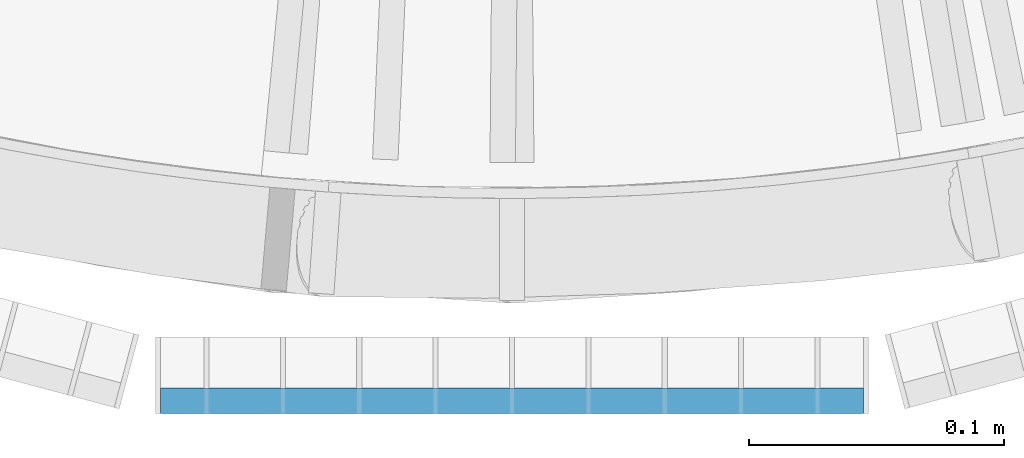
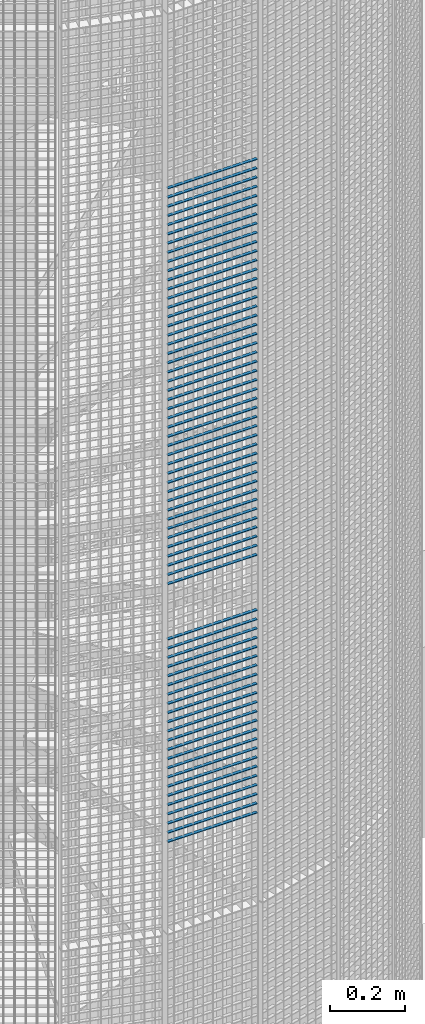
# One storey, part 142 of 1148: 67 beams, 1 element without a shape of its own.
"""IFC2X3 building model written with IfcOpenShell, lengths in millimetres."""

from ifc_helpers import new_model, si_unit, frame, origin_with_axes, origin_2d_with_axis, place, context, subcontext, project, spatial, rectangle, extrude, material, type_object, element, aggregate, save


model = new_model("IFC2X3")

# Units and contexts
model_context = context("Model", 3, precision=1e-05, world=origin_with_axes())
body_context = subcontext(model_context, "Body", "Model", "MODEL_VIEW")
ifc_project = project(units=[si_unit("LENGTHUNIT", "METRE", prefix="MILLI"), si_unit("AREAUNIT", "SQUARE_METRE"), si_unit("VOLUMEUNIT", "CUBIC_METRE"), si_unit("MASSUNIT", "GRAM", prefix="KILO"), si_unit("TIMEUNIT", "SECOND"), si_unit("PLANEANGLEUNIT", "RADIAN"), si_unit("SOLIDANGLEUNIT", "STERADIAN"), si_unit("THERMODYNAMICTEMPERATUREUNIT", "DEGREE_CELSIUS"), si_unit("LUMINOUSINTENSITYUNIT", "LUMEN")], contexts=[model_context])

# Site, building, storey
site_placement = place(None, origin_with_axes())
site = spatial("IfcSite", under=ifc_project, at=site_placement, Name="Undefined", CompositionType="ELEMENT")
building_placement = place(site_placement, origin_with_axes())
building = spatial("IfcBuilding", under=site, at=building_placement, Name="Undefined", CompositionType="ELEMENT")
storey_placement = place(building_placement, origin_with_axes())
storey = spatial("IfcBuildingStorey", under=building, at=storey_placement, Name="Undefined", CompositionType="ELEMENT", Elevation=0.0)

# Assembly, beams
assembly_placement = place(storey_placement, origin_with_axes())
assembly = element("IfcElementAssembly", 1, at=assembly_placement, inside=storey, Name="BORDURE", AssemblyPlace="NOTDEFINED", PredefinedType="NOTDEFINED")
ifc_material = material(Name="STEEL/S235JR")
beam_type = type_object("IfcBeamType", Name="PL2*10", PredefinedType="NOTDEFINED")
beam_1_placement = place(assembly_placement, frame((-137.99600337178, -1113.47999999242, 14430.0), z_axis=(0.0, -1.0, 0.0), x_axis=(1.0, 0.0, 0.0)))
beam_1 = element("IfcBeam", 2, at=beam_1_placement, type_object=beam_type, material=ifc_material, Name="ENTRETOISE", context=body_context, shape_type="SweptSolid", body=[
    extrude(rectangle(XDim=2.0, YDim=10.0, at=origin_2d_with_axis()), frame((275.999999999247, 9.09494701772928e-13, 1.53210777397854e-14), z_axis=(-1.0, 0.0, 0.0), x_axis=(0.0, -1.0, 0.0)), (0.0, 0.0, 1.0), 276.0),
])
beam_2_placement = place(assembly_placement, frame((-137.99600337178, -1113.47999999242, 14400.0), z_axis=(0.0, -1.0, 0.0), x_axis=(1.0, 0.0, 0.0)))
beam_2 = element("IfcBeam", 3, at=beam_2_placement, type_object=beam_type, material=ifc_material, Name="ENTRETOISE", context=body_context, shape_type="SweptSolid", body=[
    extrude(rectangle(XDim=2.0, YDim=10.0, at=origin_2d_with_axis()), frame((275.999999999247, 9.09494701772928e-13, 1.53210777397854e-14), z_axis=(-1.0, 0.0, 0.0), x_axis=(0.0, -1.0, 0.0)), (0.0, 0.0, 1.0), 276.0),
])
beam_3_placement = place(assembly_placement, frame((-137.99600337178, -1113.47999999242, 14370.0), z_axis=(0.0, -1.0, 0.0), x_axis=(1.0, 0.0, 0.0)))
beam_3 = element("IfcBeam", 4, at=beam_3_placement, type_object=beam_type, material=ifc_material, Name="ENTRETOISE", context=body_context, shape_type="SweptSolid", body=[
    extrude(rectangle(XDim=2.0, YDim=10.0, at=origin_2d_with_axis()), frame((275.999999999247, 9.09494701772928e-13, 1.53210777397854e-14), z_axis=(-1.0, 0.0, 0.0), x_axis=(0.0, -1.0, 0.0)), (0.0, 0.0, 1.0), 276.0),
])
beam_4_placement = place(assembly_placement, frame((-137.99600337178, -1113.47999999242, 14340.0), z_axis=(0.0, -1.0, 0.0), x_axis=(1.0, 0.0, 0.0)))
beam_4 = element("IfcBeam", 5, at=beam_4_placement, type_object=beam_type, material=ifc_material, Name="ENTRETOISE", context=body_context, shape_type="SweptSolid", body=[
    extrude(rectangle(XDim=2.0, YDim=10.0, at=origin_2d_with_axis()), frame((275.999999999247, 9.09494701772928e-13, 1.53210777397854e-14), z_axis=(-1.0, 0.0, 0.0), x_axis=(0.0, -1.0, 0.0)), (0.0, 0.0, 1.0), 276.0),
])
beam_5_placement = place(assembly_placement, frame((-137.996003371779, -1113.47999999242, 14310.0), z_axis=(0.0, -1.0, 0.0), x_axis=(1.0, 0.0, 0.0)))
beam_5 = element("IfcBeam", 6, at=beam_5_placement, type_object=beam_type, material=ifc_material, Name="ENTRETOISE", context=body_context, shape_type="SweptSolid", body=[
    extrude(rectangle(XDim=2.0, YDim=10.0, at=origin_2d_with_axis()), frame((275.999999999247, 9.09494701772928e-13, 1.53210777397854e-14), z_axis=(-1.0, 0.0, 0.0), x_axis=(0.0, -1.0, 0.0)), (0.0, 0.0, 1.0), 276.0),
])
beam_6_placement = place(assembly_placement, frame((-137.996003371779, -1113.47999999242, 14280.0), z_axis=(0.0, -1.0, 0.0), x_axis=(1.0, 0.0, 0.0)))
beam_6 = element("IfcBeam", 7, at=beam_6_placement, type_object=beam_type, material=ifc_material, Name="ENTRETOISE", context=body_context, shape_type="SweptSolid", body=[
    extrude(rectangle(XDim=2.0, YDim=10.0, at=origin_2d_with_axis()), frame((275.999999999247, 9.09494701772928e-13, 1.53210777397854e-14), z_axis=(-1.0, 0.0, 0.0), x_axis=(0.0, -1.0, 0.0)), (0.0, 0.0, 1.0), 276.0),
])
beam_7_placement = place(assembly_placement, frame((-137.996003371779, -1113.47999999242, 14250.0), z_axis=(0.0, -1.0, 0.0), x_axis=(1.0, 0.0, 0.0)))
beam_7 = element("IfcBeam", 8, at=beam_7_placement, type_object=beam_type, material=ifc_material, Name="ENTRETOISE", context=body_context, shape_type="SweptSolid", body=[
    extrude(rectangle(XDim=2.0, YDim=10.0, at=origin_2d_with_axis()), frame((275.999999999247, 9.09494701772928e-13, 1.53210777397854e-14), z_axis=(-1.0, 0.0, 0.0), x_axis=(0.0, -1.0, 0.0)), (0.0, 0.0, 1.0), 276.0),
])
beam_8_placement = place(assembly_placement, frame((-137.996003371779, -1113.47999999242, 14220.0), z_axis=(0.0, -1.0, 0.0), x_axis=(1.0, 0.0, 0.0)))
beam_8 = element("IfcBeam", 9, at=beam_8_placement, type_object=beam_type, material=ifc_material, Name="ENTRETOISE", context=body_context, shape_type="SweptSolid", body=[
    extrude(rectangle(XDim=2.0, YDim=10.0, at=origin_2d_with_axis()), frame((275.999999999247, 9.09494701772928e-13, 1.53210777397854e-14), z_axis=(-1.0, 0.0, 0.0), x_axis=(0.0, -1.0, 0.0)), (0.0, 0.0, 1.0), 276.0),
])
beam_9_placement = place(assembly_placement, frame((-137.996003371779, -1113.47999999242, 14190.0), z_axis=(0.0, -1.0, 0.0), x_axis=(1.0, 0.0, 0.0)))
beam_9 = element("IfcBeam", 10, at=beam_9_placement, type_object=beam_type, material=ifc_material, Name="ENTRETOISE", context=body_context, shape_type="SweptSolid", body=[
    extrude(rectangle(XDim=2.0, YDim=10.0, at=origin_2d_with_axis()), frame((275.999999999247, 9.09494701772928e-13, 1.53210777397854e-14), z_axis=(-1.0, 0.0, 0.0), x_axis=(0.0, -1.0, 0.0)), (0.0, 0.0, 1.0), 276.0),
])
beam_10_placement = place(assembly_placement, frame((-137.996003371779, -1113.47999999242, 14160.0), z_axis=(0.0, -1.0, 0.0), x_axis=(1.0, 0.0, 0.0)))
beam_10 = element("IfcBeam", 11, at=beam_10_placement, type_object=beam_type, material=ifc_material, Name="ENTRETOISE", context=body_context, shape_type="SweptSolid", body=[
    extrude(rectangle(XDim=2.0, YDim=10.0, at=origin_2d_with_axis()), frame((275.999999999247, 9.09494701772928e-13, 1.53210777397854e-14), z_axis=(-1.0, 0.0, 0.0), x_axis=(0.0, -1.0, 0.0)), (0.0, 0.0, 1.0), 276.0),
])
beam_11_placement = place(assembly_placement, frame((-137.996003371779, -1113.47999999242, 14130.0), z_axis=(0.0, -1.0, 0.0), x_axis=(1.0, 0.0, 0.0)))
beam_11 = element("IfcBeam", 12, at=beam_11_placement, type_object=beam_type, material=ifc_material, Name="ENTRETOISE", context=body_context, shape_type="SweptSolid", body=[
    extrude(rectangle(XDim=2.0, YDim=10.0, at=origin_2d_with_axis()), frame((275.999999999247, 9.09494701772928e-13, 1.53210777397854e-14), z_axis=(-1.0, 0.0, 0.0), x_axis=(0.0, -1.0, 0.0)), (0.0, 0.0, 1.0), 276.0),
])
beam_12_placement = place(assembly_placement, frame((-137.996003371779, -1113.47999999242, 14100.0), z_axis=(0.0, -1.0, 0.0), x_axis=(1.0, 0.0, 0.0)))
beam_12 = element("IfcBeam", 13, at=beam_12_placement, type_object=beam_type, material=ifc_material, Name="ENTRETOISE", context=body_context, shape_type="SweptSolid", body=[
    extrude(rectangle(XDim=2.0, YDim=10.0, at=origin_2d_with_axis()), frame((275.999999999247, 9.09494701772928e-13, 1.53210777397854e-14), z_axis=(-1.0, 0.0, 0.0), x_axis=(0.0, -1.0, 0.0)), (0.0, 0.0, 1.0), 276.0),
])
beam_13_placement = place(assembly_placement, frame((-137.996003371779, -1113.47999999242, 14070.0), z_axis=(0.0, -1.0, 0.0), x_axis=(1.0, 0.0, 0.0)))
beam_13 = element("IfcBeam", 14, at=beam_13_placement, type_object=beam_type, material=ifc_material, Name="ENTRETOISE", context=body_context, shape_type="SweptSolid", body=[
    extrude(rectangle(XDim=2.0, YDim=10.0, at=origin_2d_with_axis()), frame((275.999999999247, 9.09494701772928e-13, 1.53210777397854e-14), z_axis=(-1.0, 0.0, 0.0), x_axis=(0.0, -1.0, 0.0)), (0.0, 0.0, 1.0), 276.0),
])
beam_14_placement = place(assembly_placement, frame((-137.996003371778, -1113.47999999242, 14040.0), z_axis=(0.0, -1.0, 0.0), x_axis=(1.0, 0.0, 0.0)))
beam_14 = element("IfcBeam", 15, at=beam_14_placement, type_object=beam_type, material=ifc_material, Name="ENTRETOISE", context=body_context, shape_type="SweptSolid", body=[
    extrude(rectangle(XDim=2.0, YDim=10.0, at=origin_2d_with_axis()), frame((275.999999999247, 9.09494701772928e-13, 1.53210777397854e-14), z_axis=(-1.0, 0.0, 0.0), x_axis=(0.0, -1.0, 0.0)), (0.0, 0.0, 1.0), 276.0),
])
beam_15_placement = place(assembly_placement, frame((-137.996003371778, -1113.47999999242, 14010.0), z_axis=(0.0, -1.0, 0.0), x_axis=(1.0, 0.0, 0.0)))
beam_15 = element("IfcBeam", 16, at=beam_15_placement, type_object=beam_type, material=ifc_material, Name="ENTRETOISE", context=body_context, shape_type="SweptSolid", body=[
    extrude(rectangle(XDim=2.0, YDim=10.0, at=origin_2d_with_axis()), frame((275.999999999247, 9.09494701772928e-13, 1.53210777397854e-14), z_axis=(-1.0, 0.0, 0.0), x_axis=(0.0, -1.0, 0.0)), (0.0, 0.0, 1.0), 276.0),
])
beam_16_placement = place(assembly_placement, frame((-137.996003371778, -1113.47999999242, 13980.0), z_axis=(0.0, -1.0, 0.0), x_axis=(1.0, 0.0, 0.0)))
beam_16 = element("IfcBeam", 17, at=beam_16_placement, type_object=beam_type, material=ifc_material, Name="ENTRETOISE", context=body_context, shape_type="SweptSolid", body=[
    extrude(rectangle(XDim=2.0, YDim=10.0, at=origin_2d_with_axis()), frame((275.999999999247, 9.09494701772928e-13, 1.53210777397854e-14), z_axis=(-1.0, 0.0, 0.0), x_axis=(0.0, -1.0, 0.0)), (0.0, 0.0, 1.0), 276.0),
])
beam_17_placement = place(assembly_placement, frame((-137.996003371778, -1113.47999999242, 13950.0), z_axis=(0.0, -1.0, 0.0), x_axis=(1.0, 0.0, 0.0)))
beam_17 = element("IfcBeam", 18, at=beam_17_placement, type_object=beam_type, material=ifc_material, Name="ENTRETOISE", context=body_context, shape_type="SweptSolid", body=[
    extrude(rectangle(XDim=2.0, YDim=10.0, at=origin_2d_with_axis()), frame((275.999999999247, 9.09494701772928e-13, 1.53210777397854e-14), z_axis=(-1.0, 0.0, 0.0), x_axis=(0.0, -1.0, 0.0)), (0.0, 0.0, 1.0), 276.0),
])
beam_18_placement = place(assembly_placement, frame((-137.996003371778, -1113.47999999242, 13920.0), z_axis=(0.0, -1.0, 0.0), x_axis=(1.0, 0.0, 0.0)))
beam_18 = element("IfcBeam", 19, at=beam_18_placement, type_object=beam_type, material=ifc_material, Name="ENTRETOISE", context=body_context, shape_type="SweptSolid", body=[
    extrude(rectangle(XDim=2.0, YDim=10.0, at=origin_2d_with_axis()), frame((275.999999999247, 9.09494701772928e-13, 1.53210777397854e-14), z_axis=(-1.0, 0.0, 0.0), x_axis=(0.0, -1.0, 0.0)), (0.0, 0.0, 1.0), 276.0),
])
beam_19_placement = place(assembly_placement, frame((-137.996003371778, -1113.47999999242, 13890.0), z_axis=(0.0, -1.0, 0.0), x_axis=(1.0, 0.0, 0.0)))
beam_19 = element("IfcBeam", 20, at=beam_19_placement, type_object=beam_type, material=ifc_material, Name="ENTRETOISE", context=body_context, shape_type="SweptSolid", body=[
    extrude(rectangle(XDim=2.0, YDim=10.0, at=origin_2d_with_axis()), frame((275.999999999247, 9.09494701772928e-13, 1.53210777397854e-14), z_axis=(-1.0, 0.0, 0.0), x_axis=(0.0, -1.0, 0.0)), (0.0, 0.0, 1.0), 276.0),
])
beam_20_placement = place(assembly_placement, frame((-137.996003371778, -1113.47999999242, 13860.0), z_axis=(0.0, -1.0, 0.0), x_axis=(1.0, 0.0, 0.0)))
beam_20 = element("IfcBeam", 21, at=beam_20_placement, type_object=beam_type, material=ifc_material, Name="ENTRETOISE", context=body_context, shape_type="SweptSolid", body=[
    extrude(rectangle(XDim=2.0, YDim=10.0, at=origin_2d_with_axis()), frame((275.999999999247, 9.09494701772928e-13, 1.53210777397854e-14), z_axis=(-1.0, 0.0, 0.0), x_axis=(0.0, -1.0, 0.0)), (0.0, 0.0, 1.0), 276.0),
])
beam_21_placement = place(assembly_placement, frame((-137.996003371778, -1113.47999999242, 13830.0), z_axis=(0.0, -1.0, 0.0), x_axis=(1.0, 0.0, 0.0)))
beam_21 = element("IfcBeam", 22, at=beam_21_placement, type_object=beam_type, material=ifc_material, Name="ENTRETOISE", context=body_context, shape_type="SweptSolid", body=[
    extrude(rectangle(XDim=2.0, YDim=10.0, at=origin_2d_with_axis()), frame((275.999999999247, 9.09494701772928e-13, 1.53210777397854e-14), z_axis=(-1.0, 0.0, 0.0), x_axis=(0.0, -1.0, 0.0)), (0.0, 0.0, 1.0), 276.0),
])
beam_22_placement = place(assembly_placement, frame((-137.996003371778, -1113.47999999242, 13800.0), z_axis=(0.0, -1.0, 0.0), x_axis=(1.0, 0.0, 0.0)))
beam_22 = element("IfcBeam", 23, at=beam_22_placement, type_object=beam_type, material=ifc_material, Name="ENTRETOISE", context=body_context, shape_type="SweptSolid", body=[
    extrude(rectangle(XDim=2.0, YDim=10.0, at=origin_2d_with_axis()), frame((275.999999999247, 9.09494701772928e-13, 1.53210777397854e-14), z_axis=(-1.0, 0.0, 0.0), x_axis=(0.0, -1.0, 0.0)), (0.0, 0.0, 1.0), 276.0),
])
beam_23_placement = place(assembly_placement, frame((-137.996003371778, -1113.47999999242, 13770.0), z_axis=(0.0, -1.0, 0.0), x_axis=(1.0, 0.0, 0.0)))
beam_23 = element("IfcBeam", 24, at=beam_23_placement, type_object=beam_type, material=ifc_material, Name="ENTRETOISE", context=body_context, shape_type="SweptSolid", body=[
    extrude(rectangle(XDim=2.0, YDim=10.0, at=origin_2d_with_axis()), frame((275.999999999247, 9.09494701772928e-13, 1.53210777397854e-14), z_axis=(-1.0, 0.0, 0.0), x_axis=(0.0, -1.0, 0.0)), (0.0, 0.0, 1.0), 276.0),
])
beam_24_placement = place(assembly_placement, frame((-137.996003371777, -1113.47999999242, 13740.0), z_axis=(0.0, -1.0, 0.0), x_axis=(1.0, 0.0, 0.0)))
beam_24 = element("IfcBeam", 25, at=beam_24_placement, type_object=beam_type, material=ifc_material, Name="ENTRETOISE", context=body_context, shape_type="SweptSolid", body=[
    extrude(rectangle(XDim=2.0, YDim=10.0, at=origin_2d_with_axis()), frame((275.999999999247, 9.09494701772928e-13, 1.53210777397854e-14), z_axis=(-1.0, 0.0, 0.0), x_axis=(0.0, -1.0, 0.0)), (0.0, 0.0, 1.0), 276.0),
])
beam_25_placement = place(assembly_placement, frame((-137.996003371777, -1113.47999999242, 13710.0), z_axis=(0.0, -1.0, 0.0), x_axis=(1.0, 0.0, 0.0)))
beam_25 = element("IfcBeam", 26, at=beam_25_placement, type_object=beam_type, material=ifc_material, Name="ENTRETOISE", context=body_context, shape_type="SweptSolid", body=[
    extrude(rectangle(XDim=2.0, YDim=10.0, at=origin_2d_with_axis()), frame((275.999999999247, 9.09494701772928e-13, 1.53210777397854e-14), z_axis=(-1.0, 0.0, 0.0), x_axis=(0.0, -1.0, 0.0)), (0.0, 0.0, 1.0), 276.0),
])
beam_26_placement = place(assembly_placement, frame((-137.996003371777, -1113.47999999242, 13680.0), z_axis=(0.0, -1.0, 0.0), x_axis=(1.0, 0.0, 0.0)))
beam_26 = element("IfcBeam", 27, at=beam_26_placement, type_object=beam_type, material=ifc_material, Name="ENTRETOISE", context=body_context, shape_type="SweptSolid", body=[
    extrude(rectangle(XDim=2.0, YDim=10.0, at=origin_2d_with_axis()), frame((275.999999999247, 9.09494701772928e-13, 1.53210777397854e-14), z_axis=(-1.0, 0.0, 0.0), x_axis=(0.0, -1.0, 0.0)), (0.0, 0.0, 1.0), 276.0),
])
beam_27_placement = place(assembly_placement, frame((-137.996003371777, -1113.47999999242, 13650.0), z_axis=(0.0, -1.0, 0.0), x_axis=(1.0, 0.0, 0.0)))
beam_27 = element("IfcBeam", 28, at=beam_27_placement, type_object=beam_type, material=ifc_material, Name="ENTRETOISE", context=body_context, shape_type="SweptSolid", body=[
    extrude(rectangle(XDim=2.0, YDim=10.0, at=origin_2d_with_axis()), frame((275.999999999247, 9.09494701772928e-13, 1.53210777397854e-14), z_axis=(-1.0, 0.0, 0.0), x_axis=(0.0, -1.0, 0.0)), (0.0, 0.0, 1.0), 276.0),
])
beam_28_placement = place(assembly_placement, frame((-137.996003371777, -1113.47999999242, 13620.0), z_axis=(0.0, -1.0, 0.0), x_axis=(1.0, 0.0, 0.0)))
beam_28 = element("IfcBeam", 29, at=beam_28_placement, type_object=beam_type, material=ifc_material, Name="ENTRETOISE", context=body_context, shape_type="SweptSolid", body=[
    extrude(rectangle(XDim=2.0, YDim=10.0, at=origin_2d_with_axis()), frame((275.999999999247, 9.09494701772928e-13, 1.53210777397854e-14), z_axis=(-1.0, 0.0, 0.0), x_axis=(0.0, -1.0, 0.0)), (0.0, 0.0, 1.0), 276.0),
])
beam_29_placement = place(assembly_placement, frame((-137.996003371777, -1113.47999999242, 13590.0), z_axis=(0.0, -1.0, 0.0), x_axis=(1.0, 0.0, 0.0)))
beam_29 = element("IfcBeam", 30, at=beam_29_placement, type_object=beam_type, material=ifc_material, Name="ENTRETOISE", context=body_context, shape_type="SweptSolid", body=[
    extrude(rectangle(XDim=2.0, YDim=10.0, at=origin_2d_with_axis()), frame((275.999999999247, 9.09494701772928e-13, 1.53210777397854e-14), z_axis=(-1.0, 0.0, 0.0), x_axis=(0.0, -1.0, 0.0)), (0.0, 0.0, 1.0), 276.0),
])
beam_30_placement = place(assembly_placement, frame((-137.996003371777, -1113.47999999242, 13560.0), z_axis=(0.0, -1.0, 0.0), x_axis=(1.0, 0.0, 0.0)))
beam_30 = element("IfcBeam", 31, at=beam_30_placement, type_object=beam_type, material=ifc_material, Name="ENTRETOISE", context=body_context, shape_type="SweptSolid", body=[
    extrude(rectangle(XDim=2.0, YDim=10.0, at=origin_2d_with_axis()), frame((275.999999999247, 9.09494701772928e-13, 1.53210777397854e-14), z_axis=(-1.0, 0.0, 0.0), x_axis=(0.0, -1.0, 0.0)), (0.0, 0.0, 1.0), 276.0),
])
beam_31_placement = place(assembly_placement, frame((-137.996003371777, -1113.47999999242, 13530.0), z_axis=(0.0, -1.0, 0.0), x_axis=(1.0, 0.0, 0.0)))
beam_31 = element("IfcBeam", 32, at=beam_31_placement, type_object=beam_type, material=ifc_material, Name="ENTRETOISE", context=body_context, shape_type="SweptSolid", body=[
    extrude(rectangle(XDim=2.0, YDim=10.0, at=origin_2d_with_axis()), frame((275.999999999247, 9.09494701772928e-13, 1.53210777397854e-14), z_axis=(-1.0, 0.0, 0.0), x_axis=(0.0, -1.0, 0.0)), (0.0, 0.0, 1.0), 276.0),
])
beam_32_placement = place(assembly_placement, frame((-137.996003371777, -1113.47999999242, 13500.0), z_axis=(0.0, -1.0, 0.0), x_axis=(1.0, 0.0, 0.0)))
beam_32 = element("IfcBeam", 33, at=beam_32_placement, type_object=beam_type, material=ifc_material, Name="ENTRETOISE", context=body_context, shape_type="SweptSolid", body=[
    extrude(rectangle(XDim=2.0, YDim=10.0, at=origin_2d_with_axis()), frame((275.999999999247, 9.09494701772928e-13, 1.53210777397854e-14), z_axis=(-1.0, 0.0, 0.0), x_axis=(0.0, -1.0, 0.0)), (0.0, 0.0, 1.0), 276.0),
])
beam_33_placement = place(assembly_placement, frame((-137.996003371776, -1113.47999999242, 13470.0), z_axis=(0.0, -1.0, 0.0), x_axis=(1.0, 0.0, 0.0)))
beam_33 = element("IfcBeam", 34, at=beam_33_placement, type_object=beam_type, material=ifc_material, Name="ENTRETOISE", context=body_context, shape_type="SweptSolid", body=[
    extrude(rectangle(XDim=2.0, YDim=10.0, at=origin_2d_with_axis()), frame((275.999999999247, 9.09494701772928e-13, 1.53210777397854e-14), z_axis=(-1.0, 0.0, 0.0), x_axis=(0.0, -1.0, 0.0)), (0.0, 0.0, 1.0), 276.0),
])
beam_34_placement = place(assembly_placement, frame((-137.996003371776, -1113.47999999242, 13440.0), z_axis=(0.0, -1.0, 0.0), x_axis=(1.0, 0.0, 0.0)))
beam_34 = element("IfcBeam", 35, at=beam_34_placement, type_object=beam_type, material=ifc_material, Name="ENTRETOISE", context=body_context, shape_type="SweptSolid", body=[
    extrude(rectangle(XDim=2.0, YDim=10.0, at=origin_2d_with_axis()), frame((275.999999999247, 9.09494701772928e-13, 1.53210777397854e-14), z_axis=(-1.0, 0.0, 0.0), x_axis=(0.0, -1.0, 0.0)), (0.0, 0.0, 1.0), 276.0),
])
beam_35_placement = place(assembly_placement, frame((-137.996003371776, -1113.47999999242, 13410.0), z_axis=(0.0, -1.0, 0.0), x_axis=(1.0, 0.0, 0.0)))
beam_35 = element("IfcBeam", 36, at=beam_35_placement, type_object=beam_type, material=ifc_material, Name="ENTRETOISE", context=body_context, shape_type="SweptSolid", body=[
    extrude(rectangle(XDim=2.0, YDim=10.0, at=origin_2d_with_axis()), frame((275.999999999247, 9.09494701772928e-13, 1.53210777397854e-14), z_axis=(-1.0, 0.0, 0.0), x_axis=(0.0, -1.0, 0.0)), (0.0, 0.0, 1.0), 276.0),
])
beam_36_placement = place(assembly_placement, frame((-137.996003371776, -1113.47999999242, 13380.0), z_axis=(0.0, -1.0, 0.0), x_axis=(1.0, 0.0, 0.0)))
beam_36 = element("IfcBeam", 37, at=beam_36_placement, type_object=beam_type, material=ifc_material, Name="ENTRETOISE", context=body_context, shape_type="SweptSolid", body=[
    extrude(rectangle(XDim=2.0, YDim=10.0, at=origin_2d_with_axis()), frame((275.999999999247, 9.09494701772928e-13, 1.53210777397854e-14), z_axis=(-1.0, 0.0, 0.0), x_axis=(0.0, -1.0, 0.0)), (0.0, 0.0, 1.0), 276.0),
])
beam_37_placement = place(assembly_placement, frame((-137.996003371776, -1113.47999999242, 13350.0), z_axis=(0.0, -1.0, 0.0), x_axis=(1.0, 0.0, 0.0)))
beam_37 = element("IfcBeam", 38, at=beam_37_placement, type_object=beam_type, material=ifc_material, Name="ENTRETOISE", context=body_context, shape_type="SweptSolid", body=[
    extrude(rectangle(XDim=2.0, YDim=10.0, at=origin_2d_with_axis()), frame((275.999999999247, 9.09494701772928e-13, 1.53210777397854e-14), z_axis=(-1.0, 0.0, 0.0), x_axis=(0.0, -1.0, 0.0)), (0.0, 0.0, 1.0), 276.0),
])
beam_38_placement = place(assembly_placement, frame((-137.996003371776, -1113.47999999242, 13320.0), z_axis=(0.0, -1.0, 0.0), x_axis=(1.0, 0.0, 0.0)))
beam_38 = element("IfcBeam", 39, at=beam_38_placement, type_object=beam_type, material=ifc_material, Name="ENTRETOISE", context=body_context, shape_type="SweptSolid", body=[
    extrude(rectangle(XDim=2.0, YDim=10.0, at=origin_2d_with_axis()), frame((275.999999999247, 9.09494701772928e-13, 1.53210777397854e-14), z_axis=(-1.0, 0.0, 0.0), x_axis=(0.0, -1.0, 0.0)), (0.0, 0.0, 1.0), 276.0),
])
beam_39_placement = place(assembly_placement, frame((-137.996003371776, -1113.47999999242, 13290.0), z_axis=(0.0, -1.0, 0.0), x_axis=(1.0, 0.0, 0.0)))
beam_39 = element("IfcBeam", 40, at=beam_39_placement, type_object=beam_type, material=ifc_material, Name="ENTRETOISE", context=body_context, shape_type="SweptSolid", body=[
    extrude(rectangle(XDim=2.0, YDim=10.0, at=origin_2d_with_axis()), frame((275.999999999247, 9.09494701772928e-13, 1.53210777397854e-14), z_axis=(-1.0, 0.0, 0.0), x_axis=(0.0, -1.0, 0.0)), (0.0, 0.0, 1.0), 276.0),
])
beam_40_placement = place(assembly_placement, frame((-137.996003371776, -1113.47999999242, 13260.0), z_axis=(0.0, -1.0, 0.0), x_axis=(1.0, 0.0, 0.0)))
beam_40 = element("IfcBeam", 41, at=beam_40_placement, type_object=beam_type, material=ifc_material, Name="ENTRETOISE", context=body_context, shape_type="SweptSolid", body=[
    extrude(rectangle(XDim=2.0, YDim=10.0, at=origin_2d_with_axis()), frame((275.999999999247, 9.09494701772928e-13, 1.53210777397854e-14), z_axis=(-1.0, 0.0, 0.0), x_axis=(0.0, -1.0, 0.0)), (0.0, 0.0, 1.0), 276.0),
])
beam_41_placement = place(assembly_placement, frame((-137.996003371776, -1113.47999999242, 13230.0), z_axis=(0.0, -1.0, 0.0), x_axis=(1.0, 0.0, 0.0)))
beam_41 = element("IfcBeam", 42, at=beam_41_placement, type_object=beam_type, material=ifc_material, Name="ENTRETOISE", context=body_context, shape_type="SweptSolid", body=[
    extrude(rectangle(XDim=2.0, YDim=10.0, at=origin_2d_with_axis()), frame((275.999999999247, 9.09494701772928e-13, 1.53210777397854e-14), z_axis=(-1.0, 0.0, 0.0), x_axis=(0.0, -1.0, 0.0)), (0.0, 0.0, 1.0), 276.0),
])
beam_42_placement = place(assembly_placement, frame((-137.996003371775, -1113.47999999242, 13200.0), z_axis=(0.0, -1.0, 0.0), x_axis=(1.0, 0.0, 0.0)))
beam_42 = element("IfcBeam", 43, at=beam_42_placement, type_object=beam_type, material=ifc_material, Name="ENTRETOISE", context=body_context, shape_type="SweptSolid", body=[
    extrude(rectangle(XDim=2.0, YDim=10.0, at=origin_2d_with_axis()), frame((275.999999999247, 9.09494701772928e-13, 1.53210777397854e-14), z_axis=(-1.0, 0.0, 0.0), x_axis=(0.0, -1.0, 0.0)), (0.0, 0.0, 1.0), 276.0),
])
beam_43_placement = place(assembly_placement, frame((-137.996003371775, -1113.47999999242, 13170.0), z_axis=(0.0, -1.0, 0.0), x_axis=(1.0, 0.0, 0.0)))
beam_43 = element("IfcBeam", 44, at=beam_43_placement, type_object=beam_type, material=ifc_material, Name="ENTRETOISE", context=body_context, shape_type="SweptSolid", body=[
    extrude(rectangle(XDim=2.0, YDim=10.0, at=origin_2d_with_axis()), frame((275.999999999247, 9.09494701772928e-13, 1.53210777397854e-14), z_axis=(-1.0, 0.0, 0.0), x_axis=(0.0, -1.0, 0.0)), (0.0, 0.0, 1.0), 276.0),
])
beam_44_placement = place(assembly_placement, frame((-137.996003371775, -1113.47999999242, 13140.0), z_axis=(0.0, -1.0, 0.0), x_axis=(1.0, 0.0, 0.0)))
beam_44 = element("IfcBeam", 45, at=beam_44_placement, type_object=beam_type, material=ifc_material, Name="ENTRETOISE", context=body_context, shape_type="SweptSolid", body=[
    extrude(rectangle(XDim=2.0, YDim=10.0, at=origin_2d_with_axis()), frame((275.999999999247, 9.09494701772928e-13, 1.53210777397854e-14), z_axis=(-1.0, 0.0, 0.0), x_axis=(0.0, -1.0, 0.0)), (0.0, 0.0, 1.0), 276.0),
])
beam_45_placement = place(assembly_placement, frame((-137.996003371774, -1113.47999999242, 12720.0), z_axis=(0.0, -1.0, 0.0), x_axis=(1.0, 0.0, 0.0)))
beam_45 = element("IfcBeam", 46, at=beam_45_placement, type_object=beam_type, material=ifc_material, Name="ENTRETOISE", context=body_context, shape_type="SweptSolid", body=[
    extrude(rectangle(XDim=2.0, YDim=10.0, at=origin_2d_with_axis()), frame((275.999999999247, 9.09494701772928e-13, 1.53210777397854e-14), z_axis=(-1.0, 0.0, 0.0), x_axis=(0.0, -1.0, 0.0)), (0.0, 0.0, 1.0), 276.0),
])
beam_46_placement = place(assembly_placement, frame((-137.996003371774, -1113.47999999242, 12690.0), z_axis=(0.0, -1.0, 0.0), x_axis=(1.0, 0.0, 0.0)))
beam_46 = element("IfcBeam", 47, at=beam_46_placement, type_object=beam_type, material=ifc_material, Name="ENTRETOISE", context=body_context, shape_type="SweptSolid", body=[
    extrude(rectangle(XDim=2.0, YDim=10.0, at=origin_2d_with_axis()), frame((275.999999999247, 9.09494701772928e-13, 1.53210777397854e-14), z_axis=(-1.0, 0.0, 0.0), x_axis=(0.0, -1.0, 0.0)), (0.0, 0.0, 1.0), 276.0),
])
beam_47_placement = place(assembly_placement, frame((-137.996003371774, -1113.47999999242, 12750.0), z_axis=(0.0, -1.0, 0.0), x_axis=(1.0, 0.0, 0.0)))
beam_47 = element("IfcBeam", 48, at=beam_47_placement, type_object=beam_type, material=ifc_material, Name="ENTRETOISE", context=body_context, shape_type="SweptSolid", body=[
    extrude(rectangle(XDim=2.0, YDim=10.0, at=origin_2d_with_axis()), frame((275.999999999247, 9.09494701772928e-13, 1.53210777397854e-14), z_axis=(-1.0, 0.0, 0.0), x_axis=(0.0, -1.0, 0.0)), (0.0, 0.0, 1.0), 276.0),
])
beam_48_placement = place(assembly_placement, frame((-137.996003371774, -1113.47999999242, 12660.0), z_axis=(0.0, -1.0, 0.0), x_axis=(1.0, 0.0, 0.0)))
beam_48 = element("IfcBeam", 49, at=beam_48_placement, type_object=beam_type, material=ifc_material, Name="ENTRETOISE", context=body_context, shape_type="SweptSolid", body=[
    extrude(rectangle(XDim=2.0, YDim=10.0, at=origin_2d_with_axis()), frame((275.999999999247, 9.09494701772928e-13, 1.53210777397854e-14), z_axis=(-1.0, 0.0, 0.0), x_axis=(0.0, -1.0, 0.0)), (0.0, 0.0, 1.0), 276.0),
])
beam_49_placement = place(assembly_placement, frame((-137.996003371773, -1113.47999999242, 12630.0), z_axis=(0.0, -1.0, 0.0), x_axis=(1.0, 0.0, 0.0)))
beam_49 = element("IfcBeam", 50, at=beam_49_placement, type_object=beam_type, material=ifc_material, Name="ENTRETOISE", context=body_context, shape_type="SweptSolid", body=[
    extrude(rectangle(XDim=2.0, YDim=10.0, at=origin_2d_with_axis()), frame((275.999999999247, 9.09494701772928e-13, 1.53210777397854e-14), z_axis=(-1.0, 0.0, 0.0), x_axis=(0.0, -1.0, 0.0)), (0.0, 0.0, 1.0), 276.0),
])
beam_50_placement = place(assembly_placement, frame((-137.996003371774, -1113.47999999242, 12780.0), z_axis=(0.0, -1.0, 0.0), x_axis=(1.0, 0.0, 0.0)))
beam_50 = element("IfcBeam", 51, at=beam_50_placement, type_object=beam_type, material=ifc_material, Name="ENTRETOISE", context=body_context, shape_type="SweptSolid", body=[
    extrude(rectangle(XDim=2.0, YDim=10.0, at=origin_2d_with_axis()), frame((275.999999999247, 9.09494701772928e-13, 1.53210777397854e-14), z_axis=(-1.0, 0.0, 0.0), x_axis=(0.0, -1.0, 0.0)), (0.0, 0.0, 1.0), 276.0),
])
beam_51_placement = place(assembly_placement, frame((-137.996003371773, -1113.47999999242, 12600.0), z_axis=(0.0, -1.0, 0.0), x_axis=(1.0, 0.0, 0.0)))
beam_51 = element("IfcBeam", 52, at=beam_51_placement, type_object=beam_type, material=ifc_material, Name="ENTRETOISE", context=body_context, shape_type="SweptSolid", body=[
    extrude(rectangle(XDim=2.0, YDim=10.0, at=origin_2d_with_axis()), frame((275.999999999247, 9.09494701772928e-13, 1.53210777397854e-14), z_axis=(-1.0, 0.0, 0.0), x_axis=(0.0, -1.0, 0.0)), (0.0, 0.0, 1.0), 276.0),
])
beam_52_placement = place(assembly_placement, frame((-137.996003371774, -1113.47999999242, 12810.0), z_axis=(0.0, -1.0, 0.0), x_axis=(1.0, 0.0, 0.0)))
beam_52 = element("IfcBeam", 53, at=beam_52_placement, type_object=beam_type, material=ifc_material, Name="ENTRETOISE", context=body_context, shape_type="SweptSolid", body=[
    extrude(rectangle(XDim=2.0, YDim=10.0, at=origin_2d_with_axis()), frame((275.999999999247, 9.09494701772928e-13, 1.53210777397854e-14), z_axis=(-1.0, 0.0, 0.0), x_axis=(0.0, -1.0, 0.0)), (0.0, 0.0, 1.0), 276.0),
])
beam_53_placement = place(assembly_placement, frame((-137.996003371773, -1113.47999999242, 12570.0), z_axis=(0.0, -1.0, 0.0), x_axis=(1.0, 0.0, 0.0)))
beam_53 = element("IfcBeam", 54, at=beam_53_placement, type_object=beam_type, material=ifc_material, Name="ENTRETOISE", context=body_context, shape_type="SweptSolid", body=[
    extrude(rectangle(XDim=2.0, YDim=10.0, at=origin_2d_with_axis()), frame((275.999999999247, 9.09494701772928e-13, 1.53210777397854e-14), z_axis=(-1.0, 0.0, 0.0), x_axis=(0.0, -1.0, 0.0)), (0.0, 0.0, 1.0), 276.0),
])
beam_54_placement = place(assembly_placement, frame((-137.996003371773, -1113.47999999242, 12540.0), z_axis=(0.0, -1.0, 0.0), x_axis=(1.0, 0.0, 0.0)))
beam_54 = element("IfcBeam", 55, at=beam_54_placement, type_object=beam_type, material=ifc_material, Name="ENTRETOISE", context=body_context, shape_type="SweptSolid", body=[
    extrude(rectangle(XDim=2.0, YDim=10.0, at=origin_2d_with_axis()), frame((275.999999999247, 9.09494701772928e-13, 1.53210777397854e-14), z_axis=(-1.0, 0.0, 0.0), x_axis=(0.0, -1.0, 0.0)), (0.0, 0.0, 1.0), 276.0),
])
beam_55_placement = place(assembly_placement, frame((-137.996003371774, -1113.47999999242, 12840.0), z_axis=(0.0, -1.0, 0.0), x_axis=(1.0, 0.0, 0.0)))
beam_55 = element("IfcBeam", 56, at=beam_55_placement, type_object=beam_type, material=ifc_material, Name="ENTRETOISE", context=body_context, shape_type="SweptSolid", body=[
    extrude(rectangle(XDim=2.0, YDim=10.0, at=origin_2d_with_axis()), frame((275.999999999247, 9.09494701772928e-13, 1.53210777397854e-14), z_axis=(-1.0, 0.0, 0.0), x_axis=(0.0, -1.0, 0.0)), (0.0, 0.0, 1.0), 276.0),
])
beam_56_placement = place(assembly_placement, frame((-137.996003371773, -1113.47999999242, 12510.0), z_axis=(0.0, -1.0, 0.0), x_axis=(1.0, 0.0, 0.0)))
beam_56 = element("IfcBeam", 57, at=beam_56_placement, type_object=beam_type, material=ifc_material, Name="ENTRETOISE", context=body_context, shape_type="SweptSolid", body=[
    extrude(rectangle(XDim=2.0, YDim=10.0, at=origin_2d_with_axis()), frame((275.999999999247, 9.09494701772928e-13, 1.53210777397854e-14), z_axis=(-1.0, 0.0, 0.0), x_axis=(0.0, -1.0, 0.0)), (0.0, 0.0, 1.0), 276.0),
])
beam_57_placement = place(assembly_placement, frame((-137.996003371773, -1113.47999999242, 12480.0), z_axis=(0.0, -1.0, 0.0), x_axis=(1.0, 0.0, 0.0)))
beam_57 = element("IfcBeam", 58, at=beam_57_placement, type_object=beam_type, material=ifc_material, Name="ENTRETOISE", context=body_context, shape_type="SweptSolid", body=[
    extrude(rectangle(XDim=2.0, YDim=10.0, at=origin_2d_with_axis()), frame((275.999999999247, 9.09494701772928e-13, 1.53210777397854e-14), z_axis=(-1.0, 0.0, 0.0), x_axis=(0.0, -1.0, 0.0)), (0.0, 0.0, 1.0), 276.0),
])
beam_58_placement = place(assembly_placement, frame((-137.996003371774, -1113.47999999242, 12870.0), z_axis=(0.0, -1.0, 0.0), x_axis=(1.0, 0.0, 0.0)))
beam_58 = element("IfcBeam", 59, at=beam_58_placement, type_object=beam_type, material=ifc_material, Name="ENTRETOISE", context=body_context, shape_type="SweptSolid", body=[
    extrude(rectangle(XDim=2.0, YDim=10.0, at=origin_2d_with_axis()), frame((275.999999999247, 9.09494701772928e-13, 1.53210777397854e-14), z_axis=(-1.0, 0.0, 0.0), x_axis=(0.0, -1.0, 0.0)), (0.0, 0.0, 1.0), 276.0),
])
beam_59_placement = place(assembly_placement, frame((-137.996003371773, -1113.47999999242, 12450.0), z_axis=(0.0, -1.0, 0.0), x_axis=(1.0, 0.0, 0.0)))
beam_59 = element("IfcBeam", 60, at=beam_59_placement, type_object=beam_type, material=ifc_material, Name="ENTRETOISE", context=body_context, shape_type="SweptSolid", body=[
    extrude(rectangle(XDim=2.0, YDim=10.0, at=origin_2d_with_axis()), frame((275.999999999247, 9.09494701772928e-13, 1.53210777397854e-14), z_axis=(-1.0, 0.0, 0.0), x_axis=(0.0, -1.0, 0.0)), (0.0, 0.0, 1.0), 276.0),
])
beam_60_placement = place(assembly_placement, frame((-137.996003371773, -1113.47999999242, 12420.0), z_axis=(0.0, -1.0, 0.0), x_axis=(1.0, 0.0, 0.0)))
beam_60 = element("IfcBeam", 61, at=beam_60_placement, type_object=beam_type, material=ifc_material, Name="ENTRETOISE", context=body_context, shape_type="SweptSolid", body=[
    extrude(rectangle(XDim=2.0, YDim=10.0, at=origin_2d_with_axis()), frame((275.999999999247, 9.09494701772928e-13, 1.53210777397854e-14), z_axis=(-1.0, 0.0, 0.0), x_axis=(0.0, -1.0, 0.0)), (0.0, 0.0, 1.0), 276.0),
])
beam_61_placement = place(assembly_placement, frame((-137.996003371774, -1113.47999999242, 12900.0), z_axis=(0.0, -1.0, 0.0), x_axis=(1.0, 0.0, 0.0)))
beam_61 = element("IfcBeam", 62, at=beam_61_placement, type_object=beam_type, material=ifc_material, Name="ENTRETOISE", context=body_context, shape_type="SweptSolid", body=[
    extrude(rectangle(XDim=2.0, YDim=10.0, at=origin_2d_with_axis()), frame((275.999999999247, 9.09494701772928e-13, 1.53210777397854e-14), z_axis=(-1.0, 0.0, 0.0), x_axis=(0.0, -1.0, 0.0)), (0.0, 0.0, 1.0), 276.0),
])
beam_62_placement = place(assembly_placement, frame((-137.996003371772, -1113.47999999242, 12390.0), z_axis=(0.0, -1.0, 0.0), x_axis=(1.0, 0.0, 0.0)))
beam_62 = element("IfcBeam", 63, at=beam_62_placement, type_object=beam_type, material=ifc_material, Name="ENTRETOISE", context=body_context, shape_type="SweptSolid", body=[
    extrude(rectangle(XDim=2.0, YDim=10.0, at=origin_2d_with_axis()), frame((275.999999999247, 9.09494701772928e-13, 1.53210777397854e-14), z_axis=(-1.0, 0.0, 0.0), x_axis=(0.0, -1.0, 0.0)), (0.0, 0.0, 1.0), 276.0),
])
beam_63_placement = place(assembly_placement, frame((-137.996003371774, -1113.47999999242, 12930.0), z_axis=(0.0, -1.0, 0.0), x_axis=(1.0, 0.0, 0.0)))
beam_63 = element("IfcBeam", 64, at=beam_63_placement, type_object=beam_type, material=ifc_material, Name="ENTRETOISE", context=body_context, shape_type="SweptSolid", body=[
    extrude(rectangle(XDim=2.0, YDim=10.0, at=origin_2d_with_axis()), frame((275.999999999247, 9.09494701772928e-13, 1.53210777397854e-14), z_axis=(-1.0, 0.0, 0.0), x_axis=(0.0, -1.0, 0.0)), (0.0, 0.0, 1.0), 276.0),
])
beam_64_placement = place(assembly_placement, frame((-137.996003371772, -1113.47999999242, 12360.0), z_axis=(0.0, -1.0, 0.0), x_axis=(1.0, 0.0, 0.0)))
beam_64 = element("IfcBeam", 65, at=beam_64_placement, type_object=beam_type, material=ifc_material, Name="ENTRETOISE", context=body_context, shape_type="SweptSolid", body=[
    extrude(rectangle(XDim=2.0, YDim=10.0, at=origin_2d_with_axis()), frame((275.999999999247, 9.09494701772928e-13, 1.53210777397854e-14), z_axis=(-1.0, 0.0, 0.0), x_axis=(0.0, -1.0, 0.0)), (0.0, 0.0, 1.0), 276.0),
])
beam_65_placement = place(assembly_placement, frame((-137.996003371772, -1113.47999999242, 12330.0), z_axis=(0.0, -1.0, 0.0), x_axis=(1.0, 0.0, 0.0)))
beam_65 = element("IfcBeam", 66, at=beam_65_placement, type_object=beam_type, material=ifc_material, Name="ENTRETOISE", context=body_context, shape_type="SweptSolid", body=[
    extrude(rectangle(XDim=2.0, YDim=10.0, at=origin_2d_with_axis()), frame((275.999999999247, 9.09494701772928e-13, 1.53210777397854e-14), z_axis=(-1.0, 0.0, 0.0), x_axis=(0.0, -1.0, 0.0)), (0.0, 0.0, 1.0), 276.0),
])
beam_66_placement = place(assembly_placement, frame((-137.996003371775, -1113.47999999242, 12960.0), z_axis=(0.0, -1.0, 0.0), x_axis=(1.0, 0.0, 0.0)))
beam_66 = element("IfcBeam", 67, at=beam_66_placement, type_object=beam_type, material=ifc_material, Name="ENTRETOISE", context=body_context, shape_type="SweptSolid", body=[
    extrude(rectangle(XDim=2.0, YDim=10.0, at=origin_2d_with_axis()), frame((275.999999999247, 9.09494701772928e-13, 1.53210777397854e-14), z_axis=(-1.0, 0.0, 0.0), x_axis=(0.0, -1.0, 0.0)), (0.0, 0.0, 1.0), 276.0),
])
beam_67_placement = place(assembly_placement, frame((-137.996003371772, -1113.47999999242, 12300.0), z_axis=(0.0, -1.0, 0.0), x_axis=(1.0, 0.0, 0.0)))
beam_67 = element("IfcBeam", 68, at=beam_67_placement, type_object=beam_type, material=ifc_material, Name="ENTRETOISE", context=body_context, shape_type="SweptSolid", body=[
    extrude(rectangle(XDim=2.0, YDim=10.0, at=origin_2d_with_axis()), frame((275.999999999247, 9.09494701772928e-13, 1.53210777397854e-14), z_axis=(-1.0, 0.0, 0.0), x_axis=(0.0, -1.0, 0.0)), (0.0, 0.0, 1.0), 276.0),
])
aggregate(assembly, [beam_1, beam_2, beam_3, beam_4, beam_5, beam_6, beam_7, beam_8, beam_9, beam_10, beam_11, beam_12, beam_13, beam_14, beam_15, beam_16, beam_17, beam_18, beam_19, beam_20, beam_21, beam_22, beam_23, beam_24, beam_25, beam_26, beam_27, beam_28, beam_29, beam_30, beam_31, beam_32, beam_33, beam_34, beam_35, beam_36, beam_37, beam_38, beam_39, beam_40, beam_41, beam_42, beam_43, beam_44, beam_45, beam_46, beam_47, beam_48, beam_49, beam_50, beam_51, beam_52, beam_53, beam_54, beam_55, beam_56, beam_57, beam_58, beam_59, beam_60, beam_61, beam_62, beam_63, beam_64, beam_65, beam_66, beam_67])

save(model, "model.ifc")
